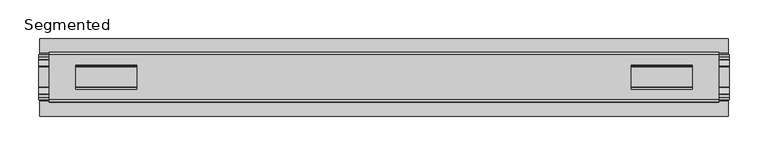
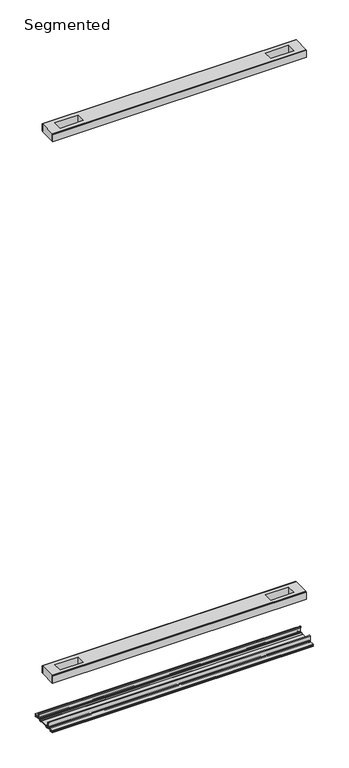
"""IFC4 building model written with IfcOpenShell, lengths in millimetres: proxy geometry, Frame-Teknion-FHCRA-Horizontal_Rail-R2022 : Segmented."""

from ifc_helpers import new_model, si_unit, point, frame, frame_2d, origin, place, context, project, spatial, polyline, circle_curve, trimmed, segment, composite_curve, outline, extrude, source, transform, mapped, element, save


def segmented_2aebe431(model_context):
    return source(origin(), model_context, "Body", "SweptSolid", [
        extrude(outline(polyline([(434.0726254, -29.0068005), (434.0726254, -32.1817997), (-434.0726254, -32.1817997), (-434.0726254, -29.0068005), (434.0726254, -29.0068005)])), frame((0.0, 0.0, 2107.0117561), z_axis=(0.0, 0.0, 1.0), x_axis=(1.0, 0.0, 0.0)), (0.0, 0.0, 1.0), 25.3999939),
        extrude(outline(polyline([(434.0726254, 32.1817997), (434.0726254, 29.0068005), (-434.0726254, 29.0068005), (-434.0726254, 32.1817997), (434.0726254, 32.1817997)])), frame((0.0, 0.0, 2107.0117561), z_axis=(0.0, 0.0, 1.0), x_axis=(1.0, 0.0, 0.0)), (0.0, 0.0, 1.0), 25.3999939),
        extrude(outline(polyline([(434.0726254, 29.0068005), (434.0726254, -29.0068005), (-434.0726254, -29.0068005), (-434.0726254, 29.0068005), (434.0726254, 29.0068005)]), holes=[polyline([(399.6556128, 15.1130038), (320.610801, 15.1130038), (320.610801, -15.875003), (399.6556128, -15.875003), (399.6556128, 15.1130038)]), polyline([(-399.6556128, 15.1130038), (-399.6556128, -15.875003), (-320.610801, -15.875003), (-320.610801, 15.1130038), (-399.6556128, 15.1130038)])]), frame((0.0, 0.0, 2105.5901786), z_axis=(0.0, 0.0, 1.0), x_axis=(1.0, 0.0, 0.0)), (0.0, 0.0, 1.0), 27.9999988),
        extrude(outline(polyline([(434.0726254, -29.0068005), (434.0726254, -32.1817997), (-434.0726254, -32.1817997), (-434.0726254, -29.0068005), (434.0726254, -29.0068005)])), frame((0.0, 0.0, 149.8401622), z_axis=(0.0, 0.0, 1.0), x_axis=(1.0, 0.0, 0.0)), (0.0, 0.0, 1.0), 25.3999939),
        extrude(outline(polyline([(434.0726254, 32.1817997), (434.0726254, 29.0068005), (-434.0726254, 29.0068005), (-434.0726254, 32.1817997), (434.0726254, 32.1817997)])), frame((0.0, 0.0, 149.8401622), z_axis=(0.0, 0.0, 1.0), x_axis=(1.0, 0.0, 0.0)), (0.0, 0.0, 1.0), 25.3999939),
        extrude(outline(polyline([(434.0726254, 29.0068005), (434.0726254, -29.0068005), (-434.0726254, -29.0068005), (-434.0726254, 29.0068005), (434.0726254, 29.0068005)]), holes=[polyline([(399.6556128, 15.1130038), (320.610801, 15.1130038), (320.610801, -15.875003), (399.6556128, -15.875003), (399.6556128, 15.1130038)]), polyline([(-399.6556128, 15.1130038), (-399.6556128, -15.875003), (-320.610801, -15.875003), (-320.610801, 15.1130038), (-399.6556128, 15.1130038)])]), frame((0.0, 0.0, 148.4185847), z_axis=(0.0, 0.0, 1.0), x_axis=(1.0, 0.0, 0.0)), (0.0, 0.0, 1.0), 27.9999988),
        extrude(outline(composite_curve([segment(polyline([(-28.8162961, -7.7516037), (-28.8162961, 9.8607558)]), True, "CONTINUOUS"), segment(trimmed(circle_curve(frame_2d((-27.5970982, 9.8607558)), 1.2191979), [point((-28.8162961, 9.8607558))], [point((-26.3779003, 9.8607558))], False, "CARTESIAN"), True, "CONTINUOUS"), segment(polyline([(-26.3779003, 9.8607558), (-26.3779003, 5.9999563), (-27.6580769, 5.9999563), (-27.6580769, -7.7516037)]), True, "CONTINUOUS"), segment(trimmed(circle_curve(frame_2d((-26.6420561, -7.7516037)), 1.0160208), [point((-27.6580769, -7.7516037))], [point((-26.6485732, -8.7676036))], True, "CARTESIAN"), True, "CONTINUOUS"), segment(polyline([(-26.6485732, -8.7676036), (-22.7056226, -8.7676036), (-21.7922609, -8.968753)]), True, "CONTINUOUS"), segment(trimmed(circle_curve(frame_2d((-17.7673021, -6.1259382)), 4.9276657), [point((-21.7922609, -8.968753))], [point((-13.7423434, -8.968753))], True, "CARTESIAN"), True, "CONTINUOUS"), segment(polyline([(-13.7423434, -8.968753), (-12.8289726, -8.7676036), (13.2099722, -8.7676036), (14.123343, -8.968753)]), True, "CONTINUOUS"), segment(trimmed(circle_curve(frame_2d((18.1483018, -6.1259382)), 4.9276657), [point((14.123343, -8.968753))], [point((22.1732605, -8.968753))], True, "CARTESIAN"), True, "CONTINUOUS"), segment(polyline([(22.1732605, -8.968753), (23.0866222, -8.7676036), (27.0295728, -8.7676036)]), True, "CONTINUOUS"), segment(trimmed(circle_curve(frame_2d((27.0230557, -7.7516037)), 1.0160208), [point((27.0295728, -8.7676036))], [point((28.0390765, -7.7516037))], True, "CARTESIAN"), True, "CONTINUOUS"), segment(polyline([(28.0390765, -7.7516037), (28.0390765, 5.9999563), (26.7588999, 5.9999563), (26.7588999, 9.8607558)]), True, "CONTINUOUS"), segment(trimmed(circle_curve(frame_2d((27.9780978, 9.8607558)), 1.2191979), [point((26.7588999, 9.8607558))], [point((29.1972958, 9.8607558))], False, "CARTESIAN"), True, "CONTINUOUS"), segment(polyline([(29.1972958, 9.8607558), (29.1972958, -7.7516037)]), True, "CONTINUOUS"), segment(trimmed(circle_curve(frame_2d((27.0230557, -7.7516037)), 2.17424), [point((29.1972958, -7.7516037))], [point((27.0230557, -9.9258438))], False, "CARTESIAN"), True, "CONTINUOUS"), segment(polyline([(27.0230557, -9.9258438), (22.732069, -9.9258438)]), True, "CONTINUOUS"), segment(trimmed(circle_curve(frame_2d((18.1516545, -6.4800016)), 5.7318431), [point((22.732069, -9.9258438))], [point((13.57124, -9.9258438))], False, "CARTESIAN"), True, "CONTINUOUS"), segment(polyline([(13.57124, -9.9258438), (-13.1902404, -9.9258438)]), True, "CONTINUOUS"), segment(trimmed(circle_curve(frame_2d((-17.7706549, -6.4800016)), 5.7318431), [point((-13.1902404, -9.9258438))], [point((-22.3510694, -9.9258438))], False, "CARTESIAN"), True, "CONTINUOUS"), segment(polyline([(-22.3510694, -9.9258438), (-26.6420561, -9.9258438)]), True, "CONTINUOUS"), segment(trimmed(circle_curve(frame_2d((-26.6420561, -7.7516037)), 2.17424), [point((-26.6420561, -9.9258438))], [point((-28.8162961, -7.7516037))], False, "CARTESIAN"), True, "CONTINUOUS")], self_intersect=False)), frame((-448.1315163, 0.0, 0.0), z_axis=(1.0, 0.0, 0.0), x_axis=(0.0, 1.0, 0.0)), (0.0, 0.0, 1.0), 896.2630326),
        extrude(outline(composite_curve([segment(polyline([(-50.2668422, -13.9898438), (-50.2240211, -12.3388438), (-39.7827507, -12.3388438), (-39.7827507, -7.766844), (-50.2240211, -7.766844), (-50.2668422, -6.1158439), (-31.1784975, -6.1158439)]), True, "CONTINUOUS"), segment(trimmed(circle_curve(frame_2d((-31.1784975, -7.6398436)), 1.5239997), [point((-31.1784975, -6.1158439))], [point((-29.6544978, -7.6398436))], False, "CARTESIAN"), True, "CONTINUOUS"), segment(polyline([(-29.6544978, -7.6398436), (-29.6544978, -9.9258438), (-23.1058344, -9.9258438)]), True, "CONTINUOUS"), segment(trimmed(circle_curve(frame_2d((-17.7673021, -5.2268471)), 7.1119966), [point((-23.1058344, -9.9258438))], [point((-12.4287699, -9.9258438))], True, "CARTESIAN"), True, "CONTINUOUS"), segment(polyline([(-12.4287699, -9.9258438), (12.8097695, -9.9258438)]), True, "CONTINUOUS"), segment(trimmed(circle_curve(frame_2d((18.1483018, -5.2268471)), 7.1119966), [point((12.8097695, -9.9258438))], [point((23.486834, -9.9258438))], True, "CARTESIAN"), True, "CONTINUOUS"), segment(polyline([(23.486834, -9.9258438), (30.0354975, -9.9258438), (30.0354975, -7.7656583)]), True, "CONTINUOUS"), segment(trimmed(circle_curve(frame_2d((31.6864982, -7.7656583)), 1.6510007), [point((30.0354975, -7.7656583))], [point((31.6239218, -6.1158439))], False, "CARTESIAN"), True, "CONTINUOUS"), segment(polyline([(31.6239218, -6.1158439), (50.00625, -6.1158439), (50.00625, -7.766844), (40.1637503, -7.766844), (40.1637503, -12.3388438), (50.00625, -12.3388438), (50.00625, -13.9898438), (40.0367518, -13.9898438)]), True, "CONTINUOUS"), segment(trimmed(circle_curve(frame_2d((40.0367518, -12.4658438)), 1.524), [point((40.0367518, -13.9898438))], [point((38.5127519, -12.4658438))], False, "CARTESIAN"), True, "CONTINUOUS"), segment(polyline([(38.5127519, -12.4658438), (38.5127519, -7.766844), (31.686497, -7.766844), (31.686497, -10.0528438)]), True, "CONTINUOUS"), segment(trimmed(circle_curve(frame_2d((30.1624971, -10.0528438)), 1.524), [point((31.686497, -10.0528438))], [point((30.1624971, -11.5768438))], False, "CARTESIAN"), True, "CONTINUOUS"), segment(polyline([(30.1624971, -11.5768438), (23.6563549, -11.5768438)]), True, "CONTINUOUS"), segment(trimmed(circle_curve(frame_2d((18.1483018, -6.4968436)), 7.4930002), [point((23.6563549, -11.5768438))], [point((12.8904968, -11.8354331))], False, "CARTESIAN"), True, "CONTINUOUS"), segment(polyline([(12.8904968, -11.8354331), (-12.5094972, -11.8354331)]), True, "CONTINUOUS"), segment(trimmed(circle_curve(frame_2d((-17.7673021, -6.4968436)), 7.4930002), [point((-12.5094972, -11.8354331))], [point((-23.2753553, -11.5768438))], False, "CARTESIAN"), True, "CONTINUOUS"), segment(polyline([(-23.2753553, -11.5768438), (-29.7814974, -11.5768438)]), True, "CONTINUOUS"), segment(trimmed(circle_curve(frame_2d((-29.7814974, -10.0528438)), 1.524), [point((-29.7814974, -11.5768438))], [point((-31.3054974, -10.0528438))], False, "CARTESIAN"), True, "CONTINUOUS"), segment(polyline([(-31.3054974, -10.0528438), (-31.3054974, -7.766844), (-38.1317522, -7.766844), (-38.1317522, -12.4658438)]), True, "CONTINUOUS"), segment(trimmed(circle_curve(frame_2d((-39.6557522, -12.4658438)), 1.524), [point((-38.1317522, -12.4658438))], [point((-39.6557522, -13.9898438))], False, "CARTESIAN"), True, "CONTINUOUS"), segment(polyline([(-39.6557522, -13.9898438), (-50.2668422, -13.9898438)]), True, "CONTINUOUS")], self_intersect=False)), frame((-446.4805163, 0.0, 0.0), z_axis=(1.0, 0.0, 0.0), x_axis=(0.0, 1.0, 0.0)), (0.0, 0.0, 1.0), 892.9610326),
    ])


if __name__ == "__main__":
    model = new_model("IFC4")
    model_context = context("Model", 3, world=origin())
    ifc_project = project(units=[si_unit("LENGTHUNIT", "METRE", prefix="MILLI")], contexts=[model_context])
    site = spatial("IfcSite", under=ifc_project)
    building = spatial("IfcBuilding", under=site)
    placement = place(None, origin())
    segmented_shape = segmented_2aebe431(model_context)
    element("IfcBuildingElementProxy", 1, Name="Frame-Teknion-FHCRA-Horizontal_Rail-R2022 : Segmented", ObjectType="Frame-Teknion-FHCRA-Horizontal_Rail-R2022 : Segmented", at=placement, inside=building, context=model_context, shape_type="MappedRepresentation", body=[
        mapped(segmented_shape, transform((0.0, 0.0, 0.0), x_axis=(1.0, 0.0, 0.0), y_axis=(0.0, 1.0, 0.0), z_axis=(0.0, 0.0, 1.0))),
    ])
    save(model, "model.ifc")
